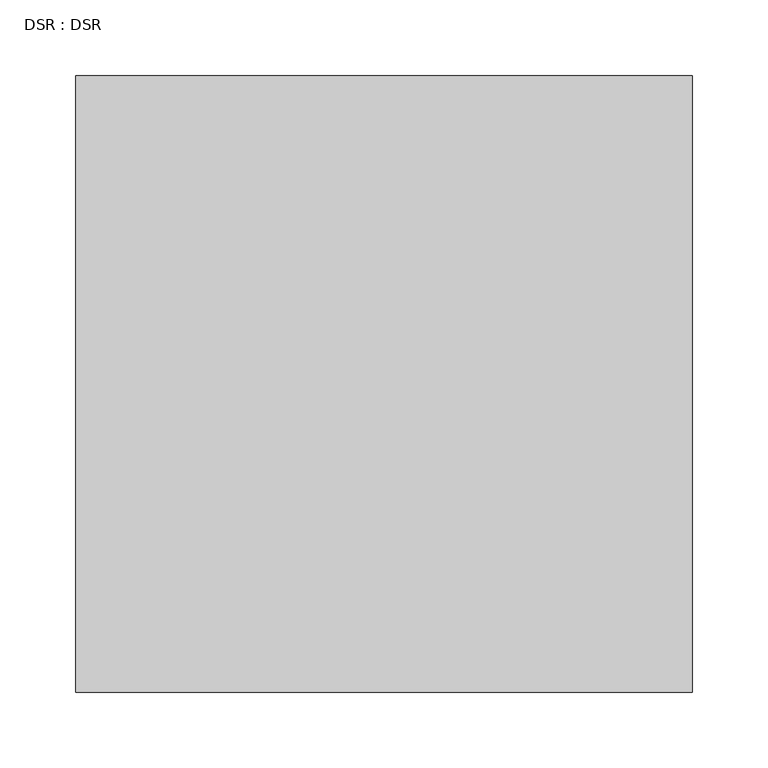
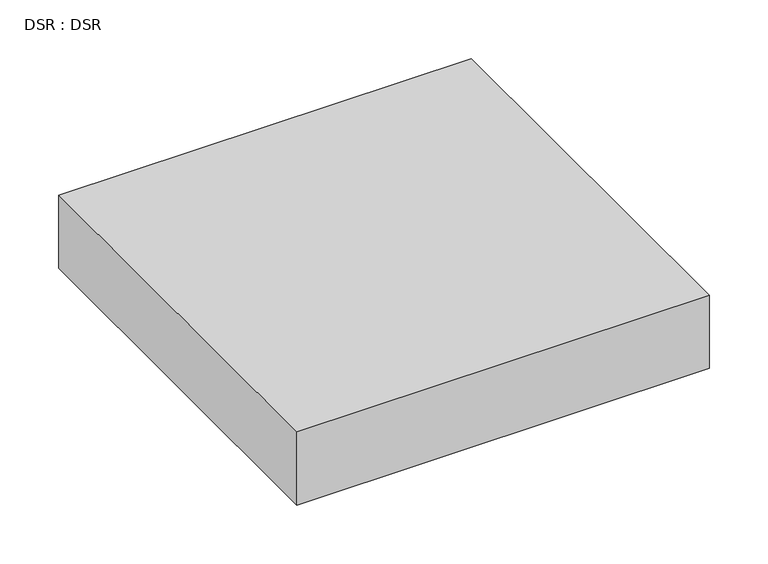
"""IFC4 building model written with IfcOpenShell, lengths in millimetres: air terminal geometry, DSR : DSR."""

from ifc_helpers import new_model, si_unit, frame, origin, place, context, project, spatial, polyline, outline, extrude, source, transform, mapped, element, save


def dsr_dsr_0d971771(model_context):
    return source(origin(), model_context, "Body", "SweptSolid", [
        extrude(outline(polyline([(203.2, -203.2), (-203.2, -203.2), (-203.2, 203.2), (203.2, 203.2), (203.2, -203.2)])), frame((0.0, 0.0, -76.2), z_axis=(0.0, 0.0, 1.0), x_axis=(1.0, 0.0, 0.0)), (0.0, 0.0, 1.0), 76.2),
    ])


if __name__ == "__main__":
    model = new_model("IFC4")
    model_context = context("Model", 3, world=origin())
    ifc_project = project(units=[si_unit("LENGTHUNIT", "METRE", prefix="MILLI")], contexts=[model_context])
    site = spatial("IfcSite", under=ifc_project)
    building = spatial("IfcBuilding", under=site)
    placement = place(None, origin())
    dsr_dsr_shape = dsr_dsr_0d971771(model_context)
    element("IfcAirTerminal", 1, ObjectType="DSR : DSR", at=placement, inside=building, context=model_context, shape_type="MappedRepresentation", body=[
        mapped(dsr_dsr_shape, transform((0.0, 0.0, 0.0), x_axis=(1.0, 0.0, 0.0), y_axis=(0.0, 1.0, 0.0), z_axis=(0.0, 0.0, 1.0))),
    ])
    save(model, "model.ifc")
